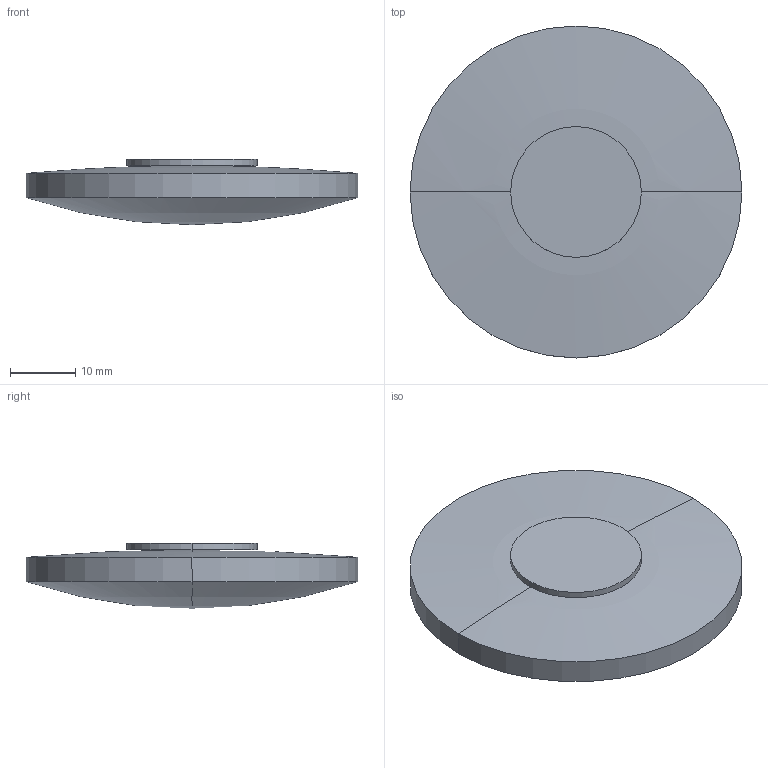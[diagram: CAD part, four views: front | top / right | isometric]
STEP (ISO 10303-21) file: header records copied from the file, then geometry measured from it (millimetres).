
FILE_DESCRIPTION(('STEP AP214'),'1');
FILE_NAME('LLR-51150.STEP','2020-03-09T17:42:02',(' '),(' '),'Spatial InterOp 3D',' ',' ');
FILE_SCHEMA(('AUTOMOTIVE_DESIGN { 1 0 10303 214 1 1 1 1 }'));
Length unit declared in the file: millimetre
Products named in the file (1): 1
Bounding box: 50.8 x 50.8 x 10 mm (x, y, z)
Volume: 13239.7 mm3; surface area: 5396 mm2
Topology: 2 solids, 2 shells, 10 faces, 20 edges, 10 vertices
Faces by surface type: sphere 4, cylinder 4, plane 2
Entity records: 255 total; most frequent: DIRECTION 52, CARTESIAN_POINT 38, ORIENTED_EDGE 32, AXIS2_PLACEMENT_3D 24, EDGE_CURVE 16, CIRCLE 12, ADVANCED_FACE 10, FACE_OUTER_BOUND 10
